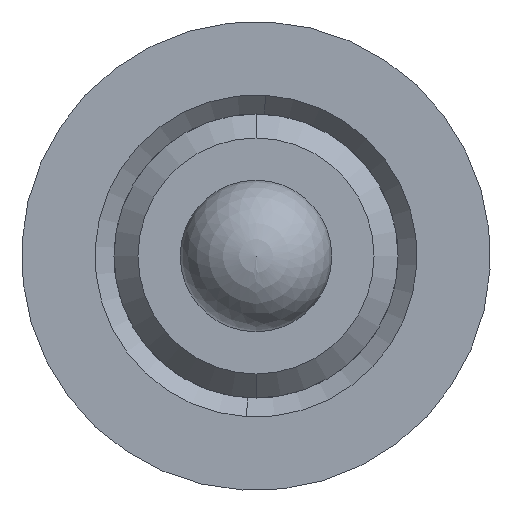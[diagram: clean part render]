
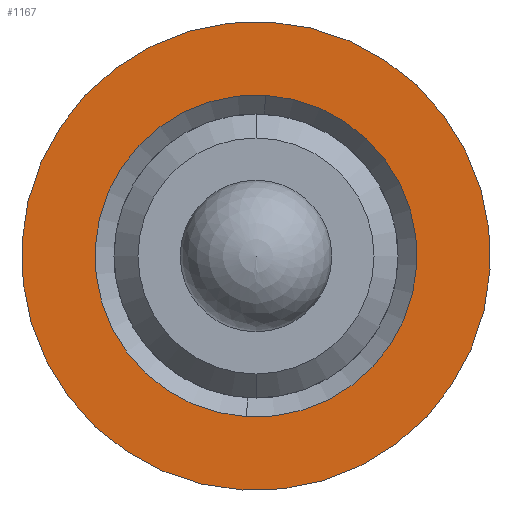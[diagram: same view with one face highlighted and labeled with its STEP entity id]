
A CAD part, left-side view. The second image highlights one B-rep face of the part: STEP entity #1167.
In plain terms, the highlighted planar face has unit normal (-1, 0, 0).
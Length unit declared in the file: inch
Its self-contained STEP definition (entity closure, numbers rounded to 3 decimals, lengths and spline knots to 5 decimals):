
#196 = VERTEX_POINT ( 'NONE', #334 ) ;
#233 = CARTESIAN_POINT ( 'NONE',  ( 0.05093, 0.32276, 0.62685 ) ) ;
#250 = ORIENTED_EDGE ( 'NONE', *, *, #928, .T. ) ;
#254 = CARTESIAN_POINT ( 'NONE',  ( 0.05093, 0.5173, 0.63836 ) ) ;
#261 = FACE_OUTER_BOUND ( 'NONE', #311, .T. ) ;
#292 = EDGE_CURVE ( 'NONE', #1354, #1412, #317, .T. ) ;
#311 = EDGE_LOOP ( 'NONE', ( #1330, #512 ) ) ;
#317 = CIRCLE ( 'NONE', #578, 0.09744 ) ;
#334 = CARTESIAN_POINT ( 'NONE',  ( 0.05093, 0.41607, 0.69942 ) ) ;
#351 = FACE_BOUND ( 'NONE', #872, .T. ) ;
#380 = VERTEX_POINT ( 'NONE', #1299 ) ;
#408 = CIRCLE ( 'NONE', #484, 0.06693 ) ;
#412 = DIRECTION ( 'NONE',  ( 0., 0.998, 0.059 ) ) ;
#413 = DIRECTION ( 'NONE',  ( 1., 0., 0. ) ) ;
#414 = CARTESIAN_POINT ( 'NONE',  ( 0.05093, 0.5173, 0.63836 ) ) ;
#439 = PLANE ( 'NONE',  #1115 ) ;
#454 = DIRECTION ( 'NONE',  ( 0., 0.998, 0.059 ) ) ;
#460 = DIRECTION ( 'NONE',  ( 1., 0., 0. ) ) ;
#461 = CARTESIAN_POINT ( 'NONE',  ( 0.05093, 0.42003, 0.63261 ) ) ;
#484 = AXIS2_PLACEMENT_3D ( 'NONE', #461, #460, #454 ) ;
#512 = ORIENTED_EDGE ( 'NONE', *, *, #292, .T. ) ;
#522 = AXIS2_PLACEMENT_3D ( 'NONE', #583, #557, #665 ) ;
#549 = CARTESIAN_POINT ( 'NONE',  ( 0.05093, 0.42003, 0.63261 ) ) ;
#557 = DIRECTION ( 'NONE',  ( -1., 0., 0. ) ) ;
#578 = AXIS2_PLACEMENT_3D ( 'NONE', #549, #1018, #1083 ) ;
#583 = CARTESIAN_POINT ( 'NONE',  ( 0.05093, 0.42003, 0.63261 ) ) ;
#665 = DIRECTION ( 'NONE',  ( 0., -0.998, -0.059 ) ) ;
#723 = EDGE_CURVE ( 'NONE', #1412, #1354, #864, .T. ) ;
#739 = DIRECTION ( 'NONE',  ( 0., 0.998, 0.059 ) ) ;
#783 = DIRECTION ( 'NONE',  ( 1., 0., 0. ) ) ;
#819 = AXIS2_PLACEMENT_3D ( 'NONE', #820, #783, #739 ) ;
#820 = CARTESIAN_POINT ( 'NONE',  ( 0.05093, 0.42003, 0.63261 ) ) ;
#852 = ORIENTED_EDGE ( 'NONE', *, *, #1113, .T. ) ;
#864 = CIRCLE ( 'NONE', #522, 0.09744 ) ;
#872 = EDGE_LOOP ( 'NONE', ( #250, #852 ) ) ;
#928 = EDGE_CURVE ( 'NONE', #196, #380, #1316, .T. ) ;
#1018 = DIRECTION ( 'NONE',  ( -1., 0., 0. ) ) ;
#1083 = DIRECTION ( 'NONE',  ( 0., -0.998, -0.059 ) ) ;
#1113 = EDGE_CURVE ( 'NONE', #380, #196, #408, .T. ) ;
#1115 = AXIS2_PLACEMENT_3D ( 'NONE', #414, #413, #412 ) ;
#1167 = ADVANCED_FACE ( 'NONE', ( #351, #261 ), #439, .F. ) ;
#1299 = CARTESIAN_POINT ( 'NONE',  ( 0.05093, 0.42398, 0.56579 ) ) ;
#1316 = CIRCLE ( 'NONE', #819, 0.06693 ) ;
#1330 = ORIENTED_EDGE ( 'NONE', *, *, #723, .T. ) ;
#1354 = VERTEX_POINT ( 'NONE', #254 ) ;
#1412 = VERTEX_POINT ( 'NONE', #233 ) ;
